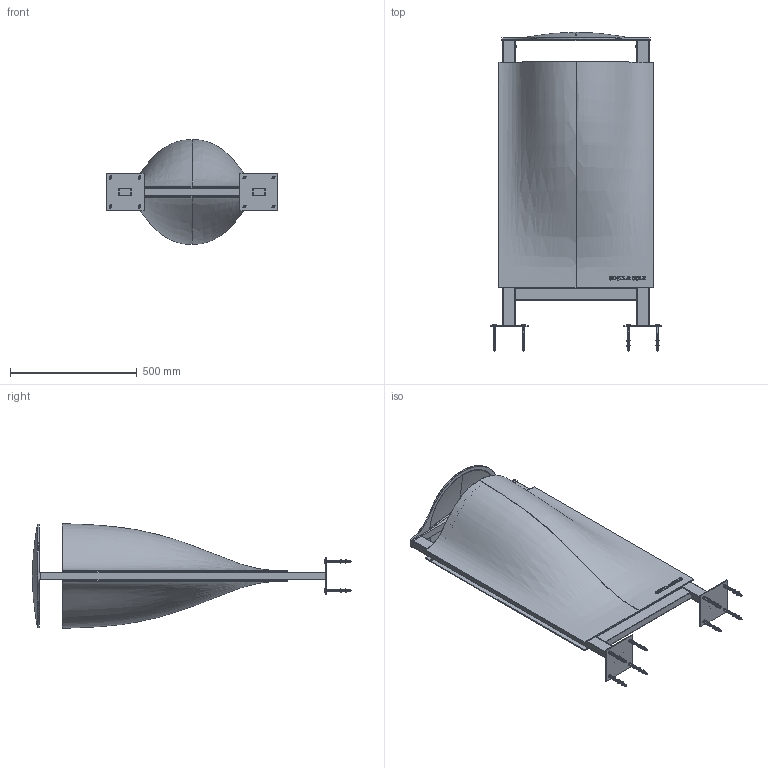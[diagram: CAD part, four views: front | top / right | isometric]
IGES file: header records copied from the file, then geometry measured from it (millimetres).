
Start section: SolidWorks IGES file using analytic representation for surfaces
Global section: file name: C:\SANTACOLE_PDM\Proyectos Catálogo\PROD-P13-013 -- FONTANA\6_Técnico comercial\3D WEB\Papelera Fontana con tapa.IGS; native system: SolidWorks 2013; preprocessor: SolidWorks 2013; author: jordi.munoz; date: 150806.123547; units: millimetre
Bounding box: 679 x 1260.25 x 413.74 mm (x, y, z)
Surface area: 4959797.6 mm2 (no closed solid volume)
Topology: 0 solids, 0 shells, 3175 faces, 21080 edges, 21047 vertices
Faces by surface type: revolution 1720, bspline 1455
